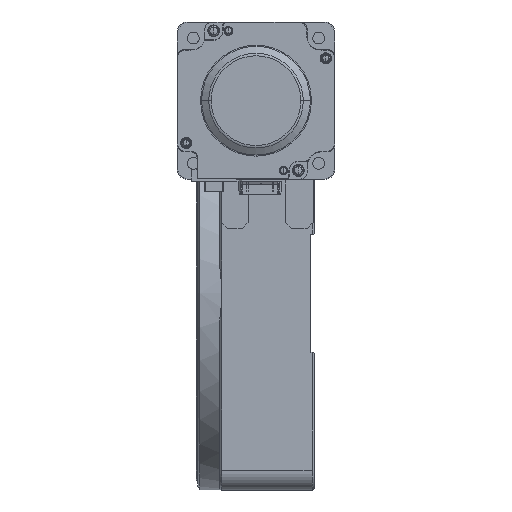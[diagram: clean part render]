
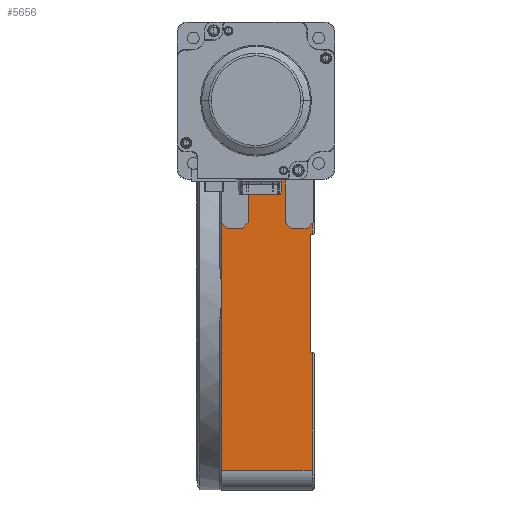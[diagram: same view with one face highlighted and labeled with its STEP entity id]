
A CAD part, left-side view. The second image highlights one B-rep face of the part: STEP entity #5656.
In plain terms, the highlighted planar face has unit normal (-1, 0, 0).
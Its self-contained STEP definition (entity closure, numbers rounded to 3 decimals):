
#46 = EDGE_CURVE ( 'NONE', #16145, #5277, #1539, .T. ) ;
#86 = DIRECTION ( 'NONE',  ( 0., -0.707, 0.707 ) ) ;
#114 = LINE ( 'NONE', #1282, #6774 ) ;
#144 = ORIENTED_EDGE ( 'NONE', *, *, #6545, .T. ) ;
#203 = LINE ( 'NONE', #942, #4051 ) ;
#683 = ORIENTED_EDGE ( 'NONE', *, *, #14380, .T. ) ;
#753 = VERTEX_POINT ( 'NONE', #13086 ) ;
#823 = CARTESIAN_POINT ( 'NONE',  ( 32.322, -28.466, 356.44 ) ) ;
#827 = ORIENTED_EDGE ( 'NONE', *, *, #8663, .F. ) ;
#841 = VECTOR ( 'NONE', #17466, 1000. ) ;
#942 = CARTESIAN_POINT ( 'NONE',  ( 32.322, -9.466, 356.44 ) ) ;
#967 = LINE ( 'NONE', #9855, #19865 ) ;
#1097 = VERTEX_POINT ( 'NONE', #15997 ) ;
#1282 = CARTESIAN_POINT ( 'NONE',  ( 32.322, -9.466, 324.44 ) ) ;
#1451 = CARTESIAN_POINT ( 'NONE',  ( 32.322, -39.466, 321.44 ) ) ;
#1539 = LINE ( 'NONE', #3945, #12041 ) ;
#1755 = VERTEX_POINT ( 'NONE', #7315 ) ;
#2141 = CARTESIAN_POINT ( 'NONE',  ( 32.322, -9.466, 324.44 ) ) ;
#2311 = CARTESIAN_POINT ( 'NONE',  ( 32.322, -31.466, 321.44 ) ) ;
#2374 = DIRECTION ( 'NONE',  ( 0., 0., 1. ) ) ;
#2446 = VECTOR ( 'NONE', #17644, 1000. ) ;
#2565 = VERTEX_POINT ( 'NONE', #14622 ) ;
#2641 = CARTESIAN_POINT ( 'NONE',  ( 32.322, -9.466, 356.44 ) ) ;
#2712 = CARTESIAN_POINT ( 'NONE',  ( 32.322, -40.966, 402.44 ) ) ;
#2893 = ORIENTED_EDGE ( 'NONE', *, *, #12565, .F. ) ;
#2953 = PLANE ( 'NONE',  #15175 ) ;
#3008 = LINE ( 'NONE', #2641, #19612 ) ;
#3132 = CARTESIAN_POINT ( 'NONE',  ( 32.322, 4.034, 402.44 ) ) ;
#3490 = LINE ( 'NONE', #2712, #20352 ) ;
#3743 = VECTOR ( 'NONE', #7802, 1000. ) ;
#3779 = VECTOR ( 'NONE', #19818, 1000. ) ;
#3945 = CARTESIAN_POINT ( 'NONE',  ( 32.322, -41.966, 371.44 ) ) ;
#3958 = ORIENTED_EDGE ( 'NONE', *, *, #5110, .T. ) ;
#4051 = VECTOR ( 'NONE', #5678, 1000. ) ;
#4185 = LINE ( 'NONE', #13720, #16453 ) ;
#4238 = EDGE_CURVE ( 'NONE', #19716, #17513, #114, .T. ) ;
#4252 = DIRECTION ( 'NONE',  ( 0., -1., 0. ) ) ;
#4263 = LINE ( 'NONE', #8863, #18576 ) ;
#4435 = EDGE_CURVE ( 'NONE', #15190, #2565, #4185, .T. ) ;
#4936 = EDGE_LOOP ( 'NONE', ( #13595, #8867, #14081, #12135, #3958, #20978, #9118, #7998, #2893, #17047, #7792, #17474, #827, #11138, #8338, #683, #144 ) ) ;
#5110 = EDGE_CURVE ( 'NONE', #2565, #1097, #5222, .T. ) ;
#5222 = LINE ( 'NONE', #15938, #841 ) ;
#5277 = VERTEX_POINT ( 'NONE', #11828 ) ;
#5656 = ADVANCED_FACE ( 'NONE', ( #17186 ), #2953, .F. ) ;
#5678 = DIRECTION ( 'NONE',  ( 0., -1., 0. ) ) ;
#5710 = DIRECTION ( 'NONE',  ( 0., -0.707, -0.707 ) ) ;
#5844 = CARTESIAN_POINT ( 'NONE',  ( 32.322, 4.034, 198.44 ) ) ;
#5851 = LINE ( 'NONE', #17698, #17337 ) ;
#6486 = VERTEX_POINT ( 'NONE', #7407 ) ;
#6545 = EDGE_CURVE ( 'NONE', #6563, #16145, #20730, .T. ) ;
#6563 = VERTEX_POINT ( 'NONE', #5844 ) ;
#6630 = CARTESIAN_POINT ( 'NONE',  ( 32.322, 4.034, 402.44 ) ) ;
#6774 = VECTOR ( 'NONE', #19225, 1000. ) ;
#6882 = CARTESIAN_POINT ( 'NONE',  ( 32.322, 4.034, 288.44 ) ) ;
#7303 = LINE ( 'NONE', #3132, #2446 ) ;
#7315 = CARTESIAN_POINT ( 'NONE',  ( 32.322, -28.466, 356.44 ) ) ;
#7407 = CARTESIAN_POINT ( 'NONE',  ( 32.322, -31.466, 321.44 ) ) ;
#7651 = DIRECTION ( 'NONE',  ( 0., 0., -1. ) ) ;
#7693 = VECTOR ( 'NONE', #4252, 1000. ) ;
#7792 = ORIENTED_EDGE ( 'NONE', *, *, #16733, .F. ) ;
#7802 = DIRECTION ( 'NONE',  ( 0., -1., 0. ) ) ;
#7998 = ORIENTED_EDGE ( 'NONE', *, *, #16845, .F. ) ;
#8338 = ORIENTED_EDGE ( 'NONE', *, *, #13390, .T. ) ;
#8663 = EDGE_CURVE ( 'NONE', #13155, #19716, #9388, .T. ) ;
#8863 = CARTESIAN_POINT ( 'NONE',  ( 32.322, -28.466, 324.44 ) ) ;
#8867 = ORIENTED_EDGE ( 'NONE', *, *, #19376, .T. ) ;
#9032 = CARTESIAN_POINT ( 'NONE',  ( 32.322, -28.466, 324.44 ) ) ;
#9118 = ORIENTED_EDGE ( 'NONE', *, *, #19616, .F. ) ;
#9388 = LINE ( 'NONE', #16065, #3743 ) ;
#9409 = CARTESIAN_POINT ( 'NONE',  ( 32.322, -41.966, 198.44 ) ) ;
#9794 = LINE ( 'NONE', #1451, #10279 ) ;
#9855 = CARTESIAN_POINT ( 'NONE',  ( 32.322, 5.034, 258.44 ) ) ;
#10167 = CARTESIAN_POINT ( 'NONE',  ( 32.322, 4.034, 324.44 ) ) ;
#10279 = VECTOR ( 'NONE', #86, 1000. ) ;
#10705 = CARTESIAN_POINT ( 'NONE',  ( 32.322, 5.034, 198.44 ) ) ;
#10739 = DIRECTION ( 'NONE',  ( 0., 0., 1. ) ) ;
#10756 = CARTESIAN_POINT ( 'NONE',  ( 32.322, 1.034, 321.44 ) ) ;
#10978 = VERTEX_POINT ( 'NONE', #13348 ) ;
#11138 = ORIENTED_EDGE ( 'NONE', *, *, #13396, .F. ) ;
#11464 = EDGE_CURVE ( 'NONE', #10978, #1097, #9794, .T. ) ;
#11828 = CARTESIAN_POINT ( 'NONE',  ( 32.322, -41.966, 258.44 ) ) ;
#12041 = VECTOR ( 'NONE', #2374, 1000. ) ;
#12131 = CARTESIAN_POINT ( 'NONE',  ( 32.322, -40.966, 318.44 ) ) ;
#12135 = ORIENTED_EDGE ( 'NONE', *, *, #4435, .T. ) ;
#12565 = EDGE_CURVE ( 'NONE', #1755, #13671, #12797, .T. ) ;
#12797 = LINE ( 'NONE', #823, #16598 ) ;
#13071 = DIRECTION ( 'NONE',  ( 0., 1., 0. ) ) ;
#13086 = CARTESIAN_POINT ( 'NONE',  ( 32.322, -40.966, 258.44 ) ) ;
#13108 = CARTESIAN_POINT ( 'NONE',  ( 32.322, 5.034, 402.44 ) ) ;
#13136 = EDGE_CURVE ( 'NONE', #14778, #1755, #203, .T. ) ;
#13155 = VERTEX_POINT ( 'NONE', #10756 ) ;
#13251 = DIRECTION ( 'NONE',  ( 1., 0., 0. ) ) ;
#13348 = CARTESIAN_POINT ( 'NONE',  ( 32.322, -39.466, 321.44 ) ) ;
#13390 = EDGE_CURVE ( 'NONE', #19059, #16425, #21192, .T. ) ;
#13396 = EDGE_CURVE ( 'NONE', #19059, #13155, #5851, .T. ) ;
#13491 = LINE ( 'NONE', #2311, #20638 ) ;
#13595 = ORIENTED_EDGE ( 'NONE', *, *, #46, .T. ) ;
#13671 = VERTEX_POINT ( 'NONE', #9032 ) ;
#13720 = CARTESIAN_POINT ( 'NONE',  ( 32.322, 5.034, 318.44 ) ) ;
#13758 = DIRECTION ( 'NONE',  ( 0., -1., 0. ) ) ;
#13922 = DIRECTION ( 'NONE',  ( 0., 0., -1. ) ) ;
#14081 = ORIENTED_EDGE ( 'NONE', *, *, #14241, .F. ) ;
#14241 = EDGE_CURVE ( 'NONE', #15190, #753, #3490, .T. ) ;
#14380 = EDGE_CURVE ( 'NONE', #16425, #6563, #7303, .T. ) ;
#14622 = CARTESIAN_POINT ( 'NONE',  ( 32.322, -41.966, 318.44 ) ) ;
#14778 = VERTEX_POINT ( 'NONE', #15241 ) ;
#15175 = AXIS2_PLACEMENT_3D ( 'NONE', #13108, #13251, #16426 ) ;
#15190 = VERTEX_POINT ( 'NONE', #12131 ) ;
#15241 = CARTESIAN_POINT ( 'NONE',  ( 32.322, -9.466, 356.44 ) ) ;
#15938 = CARTESIAN_POINT ( 'NONE',  ( 32.322, -41.966, 371.44 ) ) ;
#15997 = CARTESIAN_POINT ( 'NONE',  ( 32.322, -41.966, 323.94 ) ) ;
#16005 = CARTESIAN_POINT ( 'NONE',  ( 32.322, -6.466, 321.44 ) ) ;
#16065 = CARTESIAN_POINT ( 'NONE',  ( 32.322, -6.466, 321.44 ) ) ;
#16145 = VERTEX_POINT ( 'NONE', #9409 ) ;
#16392 = DIRECTION ( 'NONE',  ( 0., -0.707, -0.707 ) ) ;
#16425 = VERTEX_POINT ( 'NONE', #6882 ) ;
#16426 = DIRECTION ( 'NONE',  ( 0., 0., -1. ) ) ;
#16453 = VECTOR ( 'NONE', #18492, 1000. ) ;
#16598 = VECTOR ( 'NONE', #13922, 1000. ) ;
#16733 = EDGE_CURVE ( 'NONE', #17513, #14778, #3008, .T. ) ;
#16845 = EDGE_CURVE ( 'NONE', #13671, #6486, #4263, .T. ) ;
#17047 = ORIENTED_EDGE ( 'NONE', *, *, #13136, .F. ) ;
#17186 = FACE_OUTER_BOUND ( 'NONE', #4936, .T. ) ;
#17337 = VECTOR ( 'NONE', #16392, 1000. ) ;
#17466 = DIRECTION ( 'NONE',  ( 0., 0., 1. ) ) ;
#17474 = ORIENTED_EDGE ( 'NONE', *, *, #4238, .F. ) ;
#17513 = VERTEX_POINT ( 'NONE', #2141 ) ;
#17644 = DIRECTION ( 'NONE',  ( 0., 0., -1. ) ) ;
#17698 = CARTESIAN_POINT ( 'NONE',  ( 32.322, 1.034, 321.44 ) ) ;
#18492 = DIRECTION ( 'NONE',  ( 0., -1., 0. ) ) ;
#18576 = VECTOR ( 'NONE', #5710, 1000. ) ;
#19059 = VERTEX_POINT ( 'NONE', #10167 ) ;
#19225 = DIRECTION ( 'NONE',  ( 0., -0.707, 0.707 ) ) ;
#19376 = EDGE_CURVE ( 'NONE', #5277, #753, #967, .T. ) ;
#19612 = VECTOR ( 'NONE', #10739, 1000. ) ;
#19616 = EDGE_CURVE ( 'NONE', #6486, #10978, #13491, .T. ) ;
#19716 = VERTEX_POINT ( 'NONE', #16005 ) ;
#19818 = DIRECTION ( 'NONE',  ( 0., 0., -1. ) ) ;
#19865 = VECTOR ( 'NONE', #13071, 1000. ) ;
#20352 = VECTOR ( 'NONE', #7651, 1000. ) ;
#20638 = VECTOR ( 'NONE', #13758, 1000. ) ;
#20730 = LINE ( 'NONE', #10705, #7693 ) ;
#20978 = ORIENTED_EDGE ( 'NONE', *, *, #11464, .F. ) ;
#21192 = LINE ( 'NONE', #6630, #3779 ) ;
